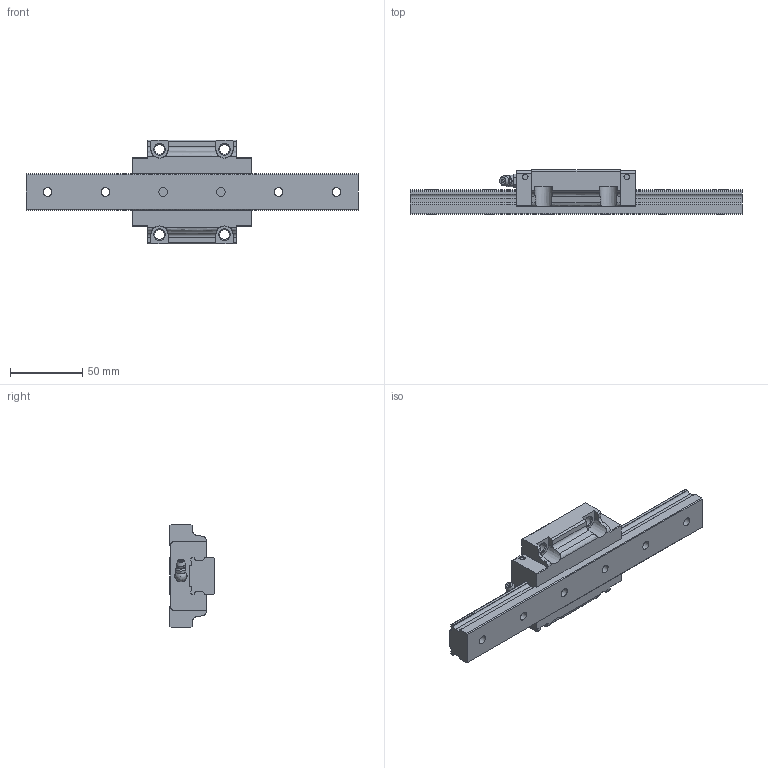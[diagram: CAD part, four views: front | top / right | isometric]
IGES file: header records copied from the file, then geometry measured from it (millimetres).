
Start section: Data from Parasolid IGES Translator 26.0.171, Copyright(c) 2006 Siemens PLM Software. All Rights Reserved.
Global section: file name: SVR25C1SS-230L_G15_0_B-M6F_73-6_0_0_0_1.igs; native system: By Siemens PLM Incorporated; preprocessor: XPlus GENERIC/IGES 26.0.171; author: Noname; organization: Noname; date: 20240517.072247; units: millimetre
Bounding box: 230 x 31 x 72 mm (x, y, z)
Surface area: 44620.4 mm2 (no closed solid volume)
Topology: 0 solids, 0 shells, 225 faces, 1210 edges, 1152 vertices
Faces by surface type: extrusion 122, revolution 103
